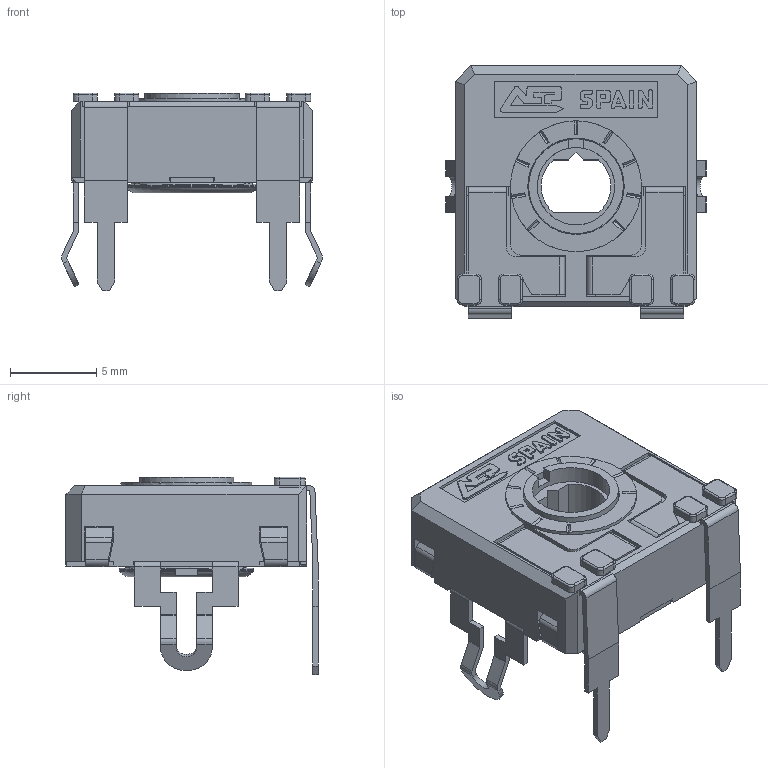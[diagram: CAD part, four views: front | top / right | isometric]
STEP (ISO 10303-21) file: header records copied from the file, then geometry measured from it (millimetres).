
FILE_DESCRIPTION(/* description */ (''),/* implementation_level */ '2;1');
FILE_NAME(/* name */ '\\SERVERACP\intercambio\Ignacio Santa Cecilia\Nueva WEB 2025\CA14 - CE14\CA14KVD7,5.stp',/* time_stamp */ '2025-06-06T10:44:17+02:00',/* author */ ('CEM'),/* organization */ (''),/* preprocessor_version */ 'ST-DEVELOPER v17',/* originating_system */ 'Autodesk Inventor 2018',/* authorisation */ '');
FILE_SCHEMA (('AUTOMOTIVE_DESIGN { 1 0 10303 214 3 1 1 }'));
Length unit declared in the file: millimetre
Products named in the file (1): CARCASA CA14 PGA
Bounding box: 15.16 x 14.65 x 11.5 mm (x, y, z)
Volume: 542.4 mm3; surface area: 1556 mm2
Topology: 1 solids, 1 shells, 735 faces, 2090 edges, 1347 vertices
Faces by surface type: plane 537, cylinder 161, torus 23, bspline 8, cone 6
Full cylindrical faces by diameter (mm): 4.5 x1, 5.5 x1, 5.6 x1, 5.752 x1, 6.8 x1, 7.6 x1
Entity records: 24159 total; most frequent: CARTESIAN_POINT 4470, ORIENTED_EDGE 4180, DIRECTION 3912, EDGE_CURVE 2090, LINE 1634, VECTOR 1634, VERTEX_POINT 1347, AXIS2_PLACEMENT_3D 1139
